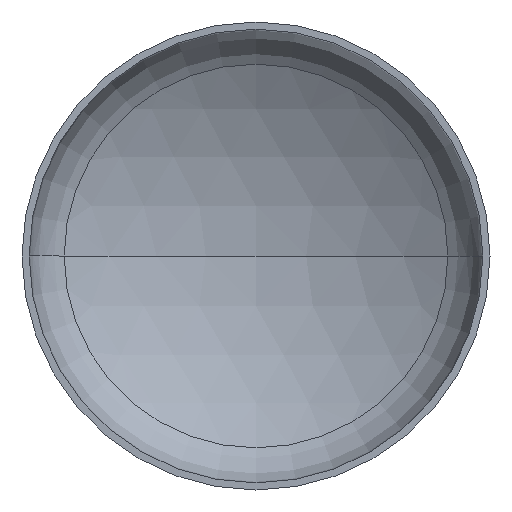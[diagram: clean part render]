
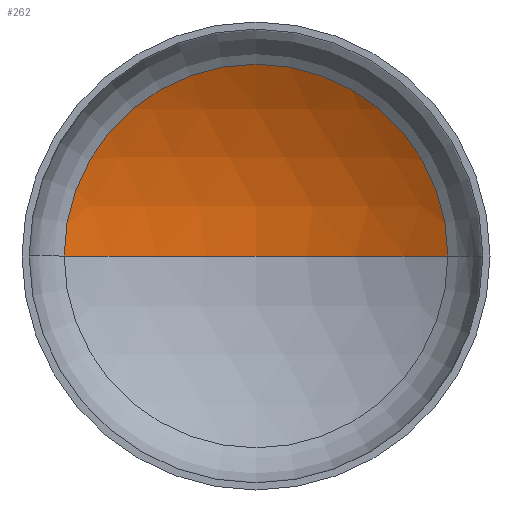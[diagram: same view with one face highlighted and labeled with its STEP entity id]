
A CAD part, front view. The second image highlights one B-rep face of the part: STEP entity #262.
In plain terms, the highlighted spherical face has radius 1200 mm.
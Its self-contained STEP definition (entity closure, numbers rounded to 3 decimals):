
#14 = EDGE_LOOP ( 'NONE', ( #115, #88, #26 ) ) ;
#19 = DIRECTION ( 'NONE',  ( -1., 0., 0. ) ) ;
#24 = DIRECTION ( 'NONE',  ( 0., 0., -1. ) ) ;
#26 = ORIENTED_EDGE ( 'NONE', *, *, #203, .T. ) ;
#33 = DIRECTION ( 'NONE',  ( 0., 0., -1. ) ) ;
#34 = CIRCLE ( 'NONE', #69, 1200. ) ;
#42 = CARTESIAN_POINT ( 'NONE',  ( -614.845, 267.516, 0. ) ) ;
#50 = AXIS2_PLACEMENT_3D ( 'NONE', #379, #33, #127 ) ;
#55 = AXIS2_PLACEMENT_3D ( 'NONE', #393, #392, #178 ) ;
#69 = AXIS2_PLACEMENT_3D ( 'NONE', #180, #24, #19 ) ;
#72 = AXIS2_PLACEMENT_3D ( 'NONE', #263, #290, #287 ) ;
#88 = ORIENTED_EDGE ( 'NONE', *, *, #223, .T. ) ;
#100 = VERTEX_POINT ( 'NONE', #333 ) ;
#115 = ORIENTED_EDGE ( 'NONE', *, *, #244, .F. ) ;
#127 = DIRECTION ( 'NONE',  ( -1., 0., 0. ) ) ;
#137 = VERTEX_POINT ( 'NONE', #325 ) ;
#177 = SPHERICAL_SURFACE ( 'NONE', #50, 1200. ) ;
#178 = DIRECTION ( 'NONE',  ( 1., 0., 0. ) ) ;
#180 = CARTESIAN_POINT ( 'NONE',  ( 0., -763.001, 0. ) ) ;
#203 = EDGE_CURVE ( 'NONE', #100, #239, #308, .T. ) ;
#223 = EDGE_CURVE ( 'NONE', #137, #100, #34, .T. ) ;
#239 = VERTEX_POINT ( 'NONE', #42 ) ;
#244 = EDGE_CURVE ( 'NONE', #137, #239, #365, .T. ) ;
#258 = FACE_OUTER_BOUND ( 'NONE', #14, .T. ) ;
#262 = ADVANCED_FACE ( 'NONE', ( #258 ), #177, .F. ) ;
#263 = CARTESIAN_POINT ( 'NONE',  ( 0., 267.516, 0. ) ) ;
#287 = DIRECTION ( 'NONE',  ( 1., 0., 0. ) ) ;
#290 = DIRECTION ( 'NONE',  ( 0., -1., 0. ) ) ;
#308 = CIRCLE ( 'NONE', #72, 614.845 ) ;
#325 = CARTESIAN_POINT ( 'NONE',  ( 0., 436.999, 0. ) ) ;
#333 = CARTESIAN_POINT ( 'NONE',  ( 614.845, 267.516, 0. ) ) ;
#365 = CIRCLE ( 'NONE', #55, 1200. ) ;
#379 = CARTESIAN_POINT ( 'NONE',  ( 0., -763.001, 0. ) ) ;
#392 = DIRECTION ( 'NONE',  ( 0., 0., 1. ) ) ;
#393 = CARTESIAN_POINT ( 'NONE',  ( 0., -763.001, 0. ) ) ;
